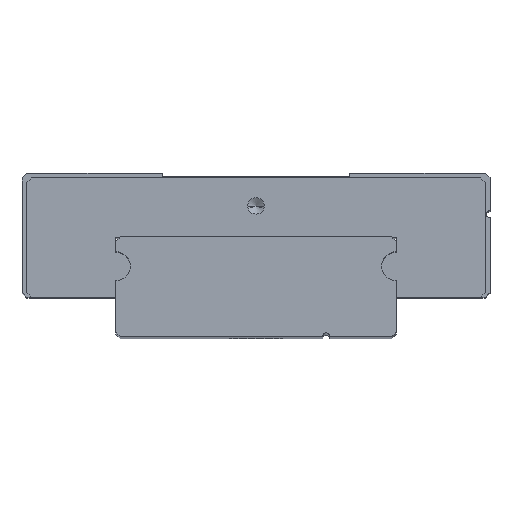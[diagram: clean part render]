
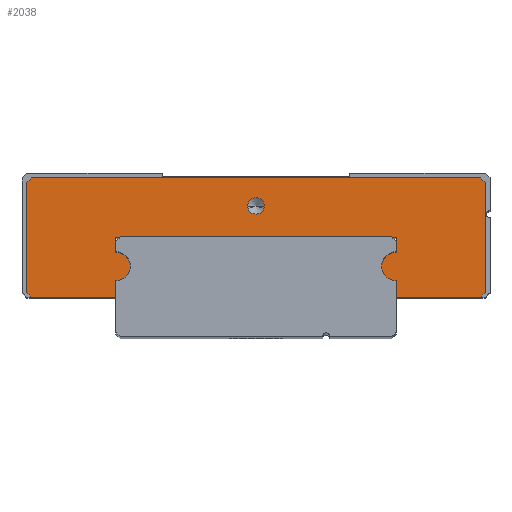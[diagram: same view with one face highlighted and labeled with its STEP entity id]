
A CAD part, top view. The second image highlights one B-rep face of the part: STEP entity #2038.
In plain terms, the highlighted planar face has unit normal (0, 0, 1).
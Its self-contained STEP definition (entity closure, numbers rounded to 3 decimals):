
#1089=CARTESIAN_POINT('',(-12.,6.,30.2));
#1090=DIRECTION('',(0.,0.,-1.));
#1091=DIRECTION('',(0.,1.,0.));
#1092=AXIS2_PLACEMENT_3D('',#1089,#1090,#1091);
#1094=DIRECTION('',(1.,0.,0.));
#1095=VECTOR('',#1094,7.2);
#1096=CARTESIAN_POINT('',(-19.2,3.4,30.2));
#1097=LINE('',#1096,#1095);
#1098=DIRECTION('',(0.707,-0.707,0.));
#1099=VECTOR('',#1098,0.566);
#1100=CARTESIAN_POINT('',(-19.6,3.8,30.2));
#1101=LINE('',#1100,#1099);
#1102=DIRECTION('',(0.,-1.,0.));
#1103=VECTOR('',#1102,9.4);
#1104=CARTESIAN_POINT('',(-19.6,13.2,30.2));
#1105=LINE('',#1104,#1103);
#1106=DIRECTION('',(-0.707,-0.707,0.));
#1107=VECTOR('',#1106,0.566);
#1108=CARTESIAN_POINT('',(-19.2,13.6,30.2));
#1109=LINE('',#1108,#1107);
#1110=DIRECTION('',(-1.,0.,0.));
#1111=VECTOR('',#1110,38.4);
#1112=CARTESIAN_POINT('',(19.2,13.6,30.2));
#1113=LINE('',#1112,#1111);
#1114=DIRECTION('',(-0.707,0.707,0.));
#1115=VECTOR('',#1114,0.566);
#1116=CARTESIAN_POINT('',(19.6,13.2,30.2));
#1117=LINE('',#1116,#1115);
#1118=DIRECTION('',(0.707,0.707,0.));
#1119=VECTOR('',#1118,0.566);
#1120=CARTESIAN_POINT('',(19.2,3.4,30.2));
#1121=LINE('',#1120,#1119);
#1122=DIRECTION('',(1.,0.,0.));
#1123=VECTOR('',#1122,7.2);
#1124=CARTESIAN_POINT('',(12.,3.4,30.2));
#1125=LINE('',#1124,#1123);
#1126=CARTESIAN_POINT('',(12.,6.,30.2));
#1127=DIRECTION('',(0.,0.,-1.));
#1128=DIRECTION('',(0.,-1.,0.));
#1129=AXIS2_PLACEMENT_3D('',#1126,#1127,#1128);
#1131=CARTESIAN_POINT('',(0.,11.2,30.2));
#1132=DIRECTION('',(0.,0.,-1.));
#1133=DIRECTION('',(-1.,0.,0.));
#1134=AXIS2_PLACEMENT_3D('',#1131,#1132,#1133);
#1136=CARTESIAN_POINT('',(0.,11.2,30.2));
#1137=DIRECTION('',(0.,0.,-1.));
#1138=DIRECTION('',(1.,0.,0.));
#1139=AXIS2_PLACEMENT_3D('',#1136,#1137,#1138);
#1217=DIRECTION('',(0.,-1.,0.));
#1218=VECTOR('',#1217,1.25);
#1219=CARTESIAN_POINT('',(-12.,8.5,30.2));
#1220=LINE('',#1219,#1218);
#1225=DIRECTION('',(-1.,0.,0.));
#1226=VECTOR('',#1225,24.);
#1227=CARTESIAN_POINT('',(12.,8.5,30.2));
#1228=LINE('',#1227,#1226);
#1233=DIRECTION('',(0.,1.,0.));
#1234=VECTOR('',#1233,1.25);
#1235=CARTESIAN_POINT('',(12.,7.25,30.2));
#1236=LINE('',#1235,#1234);
#1245=DIRECTION('',(0.,1.,0.));
#1246=VECTOR('',#1245,1.35);
#1247=CARTESIAN_POINT('',(12.,3.4,30.2));
#1248=LINE('',#1247,#1246);
#1265=DIRECTION('',(0.,-1.,0.));
#1266=VECTOR('',#1265,9.4);
#1267=CARTESIAN_POINT('',(19.6,13.2,30.2));
#1268=LINE('',#1267,#1266);
#1721=DIRECTION('',(0.,-1.,0.));
#1722=VECTOR('',#1721,1.35);
#1723=CARTESIAN_POINT('',(-12.,4.75,30.2));
#1724=LINE('',#1723,#1722);
#1777=CARTESIAN_POINT('',(-19.6,13.2,30.2));
#1778=CARTESIAN_POINT('',(-19.6,3.8,30.2));
#1779=VERTEX_POINT('',#1777);
#1780=VERTEX_POINT('',#1778);
#1781=CARTESIAN_POINT('',(-19.2,3.4,30.2));
#1782=VERTEX_POINT('',#1781);
#1783=CARTESIAN_POINT('',(-12.,3.4,30.2));
#1784=VERTEX_POINT('',#1783);
#1785=CARTESIAN_POINT('',(-12.,4.75,30.2));
#1786=VERTEX_POINT('',#1785);
#1787=CARTESIAN_POINT('',(-12.,8.5,30.2));
#1788=CARTESIAN_POINT('',(-12.,7.25,30.2));
#1789=VERTEX_POINT('',#1787);
#1790=VERTEX_POINT('',#1788);
#1791=CARTESIAN_POINT('',(12.,8.5,30.2));
#1792=VERTEX_POINT('',#1791);
#1793=CARTESIAN_POINT('',(12.,7.25,30.2));
#1794=VERTEX_POINT('',#1793);
#1795=CARTESIAN_POINT('',(12.,3.4,30.2));
#1796=CARTESIAN_POINT('',(12.,4.75,30.2));
#1797=VERTEX_POINT('',#1795);
#1798=VERTEX_POINT('',#1796);
#1799=CARTESIAN_POINT('',(19.2,3.4,30.2));
#1800=VERTEX_POINT('',#1799);
#1801=CARTESIAN_POINT('',(19.6,3.8,30.2));
#1802=VERTEX_POINT('',#1801);
#1803=CARTESIAN_POINT('',(19.6,13.2,30.2));
#1804=VERTEX_POINT('',#1803);
#1805=CARTESIAN_POINT('',(19.2,13.6,30.2));
#1806=VERTEX_POINT('',#1805);
#1807=CARTESIAN_POINT('',(-19.2,13.6,30.2));
#1808=VERTEX_POINT('',#1807);
#1939=CARTESIAN_POINT('',(-0.7,11.2,30.2));
#1940=VERTEX_POINT('',#1939);
#1941=CARTESIAN_POINT('',(0.7,11.2,30.2));
#1942=VERTEX_POINT('',#1941);
#1993=CARTESIAN_POINT('',(20.,10.5,30.2));
#1994=DIRECTION('',(0.,0.,1.));
#1995=DIRECTION('',(1.,0.,0.));
#1996=AXIS2_PLACEMENT_3D('',#1993,#1994,#1995);
#1997=PLANE('',#1996);
#1999=ORIENTED_EDGE('',*,*,#1998,.T.);
#2001=ORIENTED_EDGE('',*,*,#2000,.T.);
#2003=ORIENTED_EDGE('',*,*,#2002,.F.);
#2005=ORIENTED_EDGE('',*,*,#2004,.F.);
#2007=ORIENTED_EDGE('',*,*,#2006,.F.);
#2009=ORIENTED_EDGE('',*,*,#2008,.F.);
#2011=ORIENTED_EDGE('',*,*,#2010,.F.);
#2013=ORIENTED_EDGE('',*,*,#2012,.F.);
#2015=ORIENTED_EDGE('',*,*,#2014,.T.);
#2017=ORIENTED_EDGE('',*,*,#2016,.F.);
#2019=ORIENTED_EDGE('',*,*,#2018,.F.);
#2021=ORIENTED_EDGE('',*,*,#2020,.T.);
#2023=ORIENTED_EDGE('',*,*,#2022,.T.);
#2025=ORIENTED_EDGE('',*,*,#2024,.T.);
#2027=ORIENTED_EDGE('',*,*,#2026,.T.);
#2029=ORIENTED_EDGE('',*,*,#2028,.T.);
#2030=EDGE_LOOP('',(#1999,#2001,#2003,#2005,#2007,#2009,#2011,#2013,#2015,#2017,
#2019,#2021,#2023,#2025,#2027,#2029));
#2031=FACE_OUTER_BOUND('',#2030,.F.);
#2033=ORIENTED_EDGE('',*,*,#2032,.F.);
#2035=ORIENTED_EDGE('',*,*,#2034,.F.);
#2036=EDGE_LOOP('',(#2033,#2035));
#2037=FACE_BOUND('',#2036,.F.);
#2038=ADVANCED_FACE('',(#2031,#2037),#1997,.T.);
#1093=CIRCLE('',#1092,1.25);
#1130=CIRCLE('',#1129,1.25);
#1135=CIRCLE('',#1134,0.7);
#1140=CIRCLE('',#1139,0.7);
#1998=EDGE_CURVE('',#1790,#1786,#1093,.T.);
#2000=EDGE_CURVE('',#1786,#1784,#1724,.T.);
#2002=EDGE_CURVE('',#1782,#1784,#1097,.T.);
#2004=EDGE_CURVE('',#1780,#1782,#1101,.T.);
#2006=EDGE_CURVE('',#1779,#1780,#1105,.T.);
#2008=EDGE_CURVE('',#1808,#1779,#1109,.T.);
#2010=EDGE_CURVE('',#1806,#1808,#1113,.T.);
#2012=EDGE_CURVE('',#1804,#1806,#1117,.T.);
#2014=EDGE_CURVE('',#1804,#1802,#1268,.T.);
#2016=EDGE_CURVE('',#1800,#1802,#1121,.T.);
#2018=EDGE_CURVE('',#1797,#1800,#1125,.T.);
#2020=EDGE_CURVE('',#1797,#1798,#1248,.T.);
#2022=EDGE_CURVE('',#1798,#1794,#1130,.T.);
#2024=EDGE_CURVE('',#1794,#1792,#1236,.T.);
#2026=EDGE_CURVE('',#1792,#1789,#1228,.T.);
#2028=EDGE_CURVE('',#1789,#1790,#1220,.T.);
#2032=EDGE_CURVE('',#1940,#1942,#1135,.T.);
#2034=EDGE_CURVE('',#1942,#1940,#1140,.T.);
